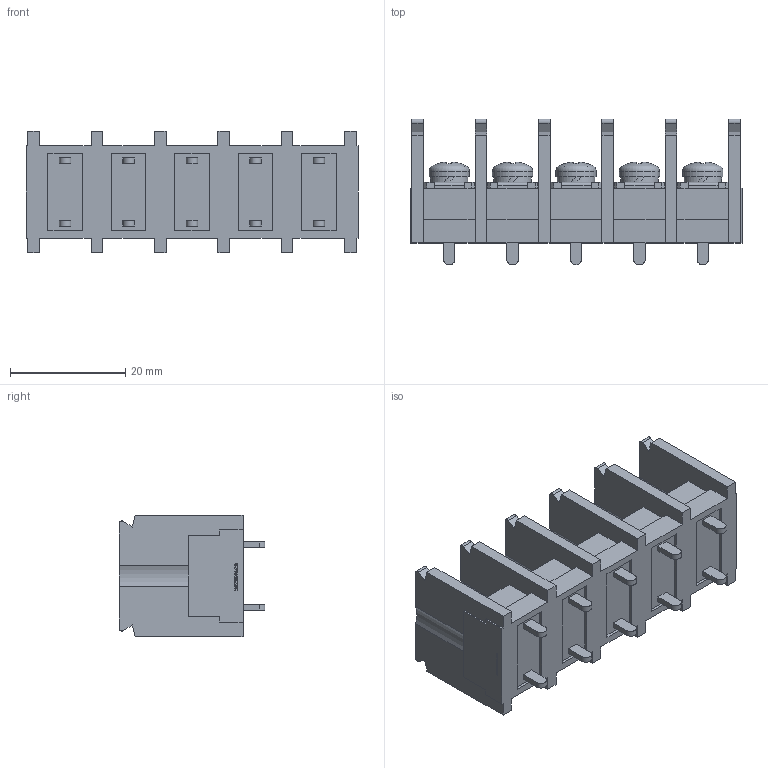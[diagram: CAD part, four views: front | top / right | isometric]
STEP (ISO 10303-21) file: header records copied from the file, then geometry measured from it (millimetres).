
FILE_DESCRIPTION(/* description */ ('Alibre Inc.'),/* implementation_level */ '2;1');
FILE_NAME(/* name */ 'export0',/* time_stamp */ '2015-12-02T12:32:12+09:00',/* author */ (''),/* organization */ (''),/* preprocessor_version */ 'ST-DEVELOPER v14',/* originating_system */ 'Alibre',/* authorisation */ '');
FILE_SCHEMA (('CONFIG_CONTROL_DESIGN'));
Length unit declared in the file: centimetre
Products named in the file (1): ID_1
Bounding box: 57.6 x 25.3 x 21 mm (x, y, z)
Volume: 10605.7 mm3; surface area: 11365.3 mm2
Topology: 1 solids, 17 shells, 915 faces, 2468 edges, 1642 vertices
Faces by surface type: plane 712, bspline 104, cylinder 64, cone 25, sphere 5, torus 5
Full cylindrical faces by diameter (mm): 4 x5, 6.5 x5, 7 x5
Entity records: 27451 total; most frequent: CARTESIAN_POINT 5995, ORIENTED_EDGE 4896, DIRECTION 3273, EDGE_CURVE 2448, VECTOR 1887, LINE 1887, VERTEX_POINT 1642, AXIS2_PLACEMENT_3D 1018
